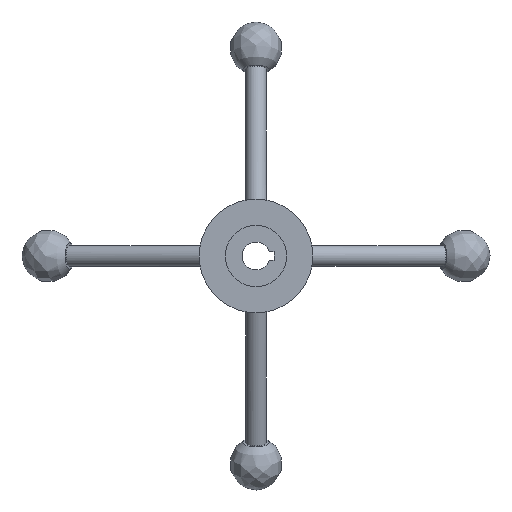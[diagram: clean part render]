
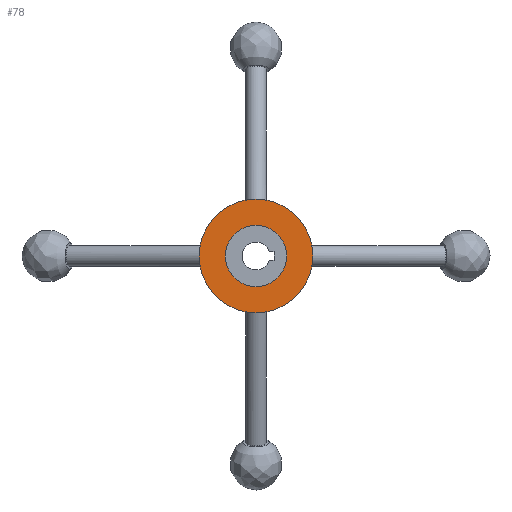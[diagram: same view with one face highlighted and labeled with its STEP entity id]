
A CAD part, front view. The second image highlights one B-rep face of the part: STEP entity #78.
In plain terms, the highlighted planar face has unit normal (0, -1, 0).
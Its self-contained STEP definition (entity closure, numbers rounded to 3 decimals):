
#78 = ADVANCED_FACE( '', ( #107, #108 ), #109, .F. );
#107 = FACE_BOUND( '', #173, .T. );
#108 = FACE_OUTER_BOUND( '', #174, .T. );
#109 = PLANE( '', #175 );
#173 = EDGE_LOOP( '', ( #384 ) );
#174 = EDGE_LOOP( '', ( #385 ) );
#175 = AXIS2_PLACEMENT_3D( '', #386, #387, #388 );
#384 = ORIENTED_EDGE( '', *, *, #489, .F. );
#385 = ORIENTED_EDGE( '', *, *, #490, .T. );
#386 = CARTESIAN_POINT( '', ( 32.5, 12., 0. ) );
#387 = DIRECTION( '', ( 0., 1., 0. ) );
#388 = DIRECTION( '', ( 0., 0., 1. ) );
#489 = EDGE_CURVE( '', #529, #529, #530, .T. );
#490 = EDGE_CURVE( '', #531, #531, #532, .T. );
#529 = VERTEX_POINT( '', #670 );
#530 = CIRCLE( '', #671, 17.5 );
#531 = VERTEX_POINT( '', #672 );
#532 = CIRCLE( '', #673, 32.5 );
#670 = CARTESIAN_POINT( '', ( 0., 12., -17.5 ) );
#671 = AXIS2_PLACEMENT_3D( '', #983, #984, #985 );
#672 = CARTESIAN_POINT( '', ( 0., 12., -32.5 ) );
#673 = AXIS2_PLACEMENT_3D( '', #986, #987, #988 );
#983 = CARTESIAN_POINT( '', ( 0., 12., 0. ) );
#984 = DIRECTION( '', ( 0., -1., 0. ) );
#985 = DIRECTION( '', ( 0., 0., -1. ) );
#986 = CARTESIAN_POINT( '', ( 0., 12., 0. ) );
#987 = DIRECTION( '', ( 0., -1., 0. ) );
#988 = DIRECTION( '', ( 0., 0., -1. ) );
